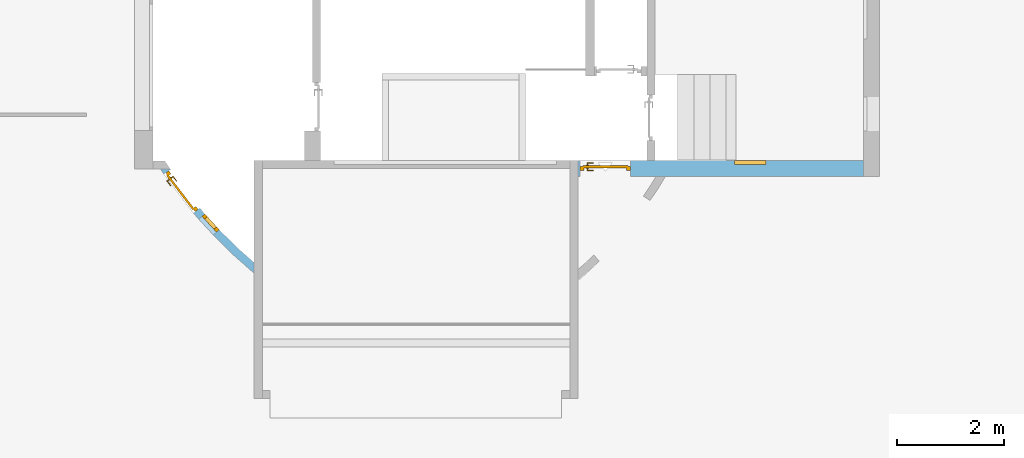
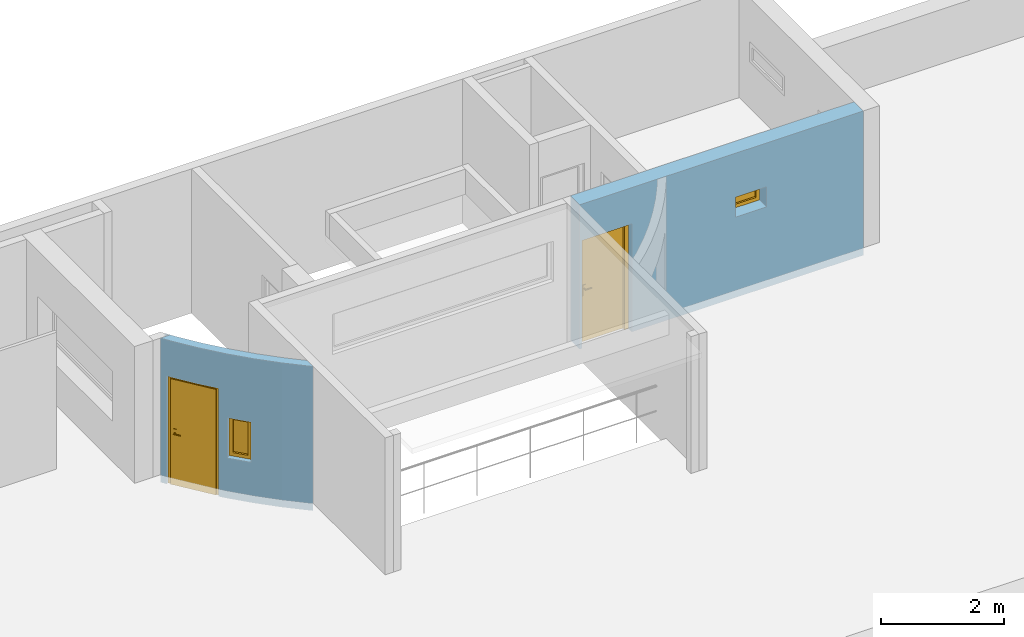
"""IFC4 building model written with IfcOpenShell, lengths in metres."""

from ifc_helpers import new_model, entity, si_unit, converted_unit, derived_unit, frame, frame_2d, origin, origin_with_axes, place, context, subcontext, project, spatial, polyline, rectangle, outline, extrude, closed_shell, open_shell, faceted_brep, surface_model, source, transform, mapped, material, layer, layer_set, layer_usage, element, fill, save


model = new_model("IFC4")

# Units and contexts
model_context = context("Model", 3, precision=1e-05, world=origin())
body_context = subcontext(model_context, "Body", "Model", "MODEL_VIEW")
ifc_project = project(units=[si_unit("LENGTHUNIT", "METRE"), si_unit("AREAUNIT", "SQUARE_METRE"), si_unit("VOLUMEUNIT", "CUBIC_METRE"), si_unit("MASSUNIT", "GRAM", prefix="KILO"), converted_unit("PLANEANGLEUNIT", "DEGREE", entity("IfcPlaneAngleMeasure", 0.0174532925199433), si_unit("PLANEANGLEUNIT", "RADIAN"), dimensions=[0, 0, 0, 0, 0, 0, 0]), derived_unit("THERMALTRANSMITTANCEUNIT", [(si_unit("POWERUNIT", "WATT"), 1), (si_unit("THERMODYNAMICTEMPERATUREUNIT", "KELVIN"), -1), (si_unit("LENGTHUNIT", "METRE"), -2)]), derived_unit("VOLUMETRICFLOWRATEUNIT", [(si_unit("LENGTHUNIT", "METRE"), 3), (converted_unit("TIMEUNIT", "hour", entity("IfcTimeMeasure", 3600.0), si_unit("TIMEUNIT", "SECOND"), dimensions=[0, 0, 1, 0, 0, 0, 0]), -1), (si_unit("LENGTHUNIT", "METRE"), -1)])], contexts=[model_context])

# Building, storeys
building_placement = place(None, origin())
building = spatial("IfcBuilding", under=ifc_project, at=building_placement, Name="HABITATGE PLURIFAMILIAR", CompositionType="ELEMENT")
storey_1_placement = place(building_placement, frame((0.0, 0.0, 21.2)))
storey_1 = spatial("IfcBuildingStorey", under=building, at=storey_1_placement, Name="PLANTA SOTACOBERTA", CompositionType="ELEMENT", Elevation=21.2)
storey_2_placement = place(storey_1_placement, origin())
storey_2 = spatial("IfcBuildingStorey", under=storey_1, at=storey_2_placement, Name="NOU", CompositionType="PARTIAL")

# Wall, openings, window, door
ifc_material_1 = material()
ifc_layer_1 = layer(ifc_material_1, 0.3)
ifc_layer_set_1 = layer_set([ifc_layer_1])
ifc_layer_usage_1 = layer_usage(ifc_layer_set_1, "AXIS2", "POSITIVE", 0.0)
wall_1_placement = place(storey_2_placement, frame((415.636931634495, 24.0095914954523, 0.0)))
wall_1 = element("IfcWall", 1, at=wall_1_placement, inside=storey_2, material=ifc_layer_usage_1, Name="Mur PSC", context=body_context, shape_type="SweptSolid", body=[
    extrude(rectangle(XDim=5.34, YDim=0.3, at=frame_2d((2.67, 0.15), x_axis=(1.0, 0.0))), origin_with_axes(), (0.0, 0.0, 1.0), 2.87),
])
opening_1_placement = place(wall_1_placement, frame((2.93, 0.0, 1.6), z_axis=(0.0, 1.0, 0.0), x_axis=(0.0, 0.0, 1.0)))
opening_1 = element("IfcOpeningElement", 2, at=opening_1_placement, cuts=wall_1, Name="Vano finestra PSC", ObjectType="Opening", context=body_context, shape_type="SweptSolid", body=[
    extrude(outline(polyline([(0.4, 0.59), (0.4, 0.0), (0.0, 0.0), (0.0, 0.59), (0.4, 0.59)])), origin_with_axes(), (0.0, 0.0, 1.0), 0.3),
])
opening_2_placement = place(wall_1_placement, frame((0.0449999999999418, 0.0, 0.0), z_axis=(0.0, 1.0, 0.0), x_axis=(0.0, 0.0, 1.0)))
opening_2 = element("IfcOpeningElement", 3, at=opening_2_placement, cuts=wall_1, Name="Vano porta PSC", ObjectType="Opening", context=body_context, shape_type="SweptSolid", body=[
    extrude(outline(polyline([(2.15, 0.94), (2.15, 0.0), (0.0, 0.0), (0.0, 0.94), (2.15, 0.94)])), origin_with_axes(), (0.0, 0.0, 1.0), 0.3),
])
shared_shape_1 = source(origin_with_axes(), body_context, "Body", "SurfaceModel", [
    surface_model("IfcShellBasedSurfaceModel", [(0.0, 0.0, 0.4), (0.07, 0.0, 0.4), (0.07, 0.0, 0.0), (0.0, 0.0, 0.0), (0.0, 0.07, 0.0), (0.07, 0.07, 0.0), (0.07, 0.07, 0.4), (0.0, 0.07, 0.4)], [closed_shell([[[0, 1, 2, 3]], [[4, 5, 6, 7]], [[3, 4, 7, 0]], [[2, 5, 4, 3]], [[1, 6, 5, 2]], [[0, 7, 6, 1]]], orient=[[False], [False], [False], [False], [False], [False]])]),
    surface_model("IfcShellBasedSurfaceModel", [(0.52, 0.0, 0.4), (0.59, 0.0, 0.4), (0.59, 0.0, 0.0), (0.52, 0.0, 0.0), (0.52, 0.07, 0.0), (0.59, 0.07, 0.0), (0.59, 0.07, 0.4), (0.52, 0.07, 0.4)], [closed_shell([[[0, 1, 2, 3]], [[4, 5, 6, 7]], [[3, 4, 7, 0]], [[2, 5, 4, 3]], [[1, 6, 5, 2]], [[0, 7, 6, 1]]], orient=[[False], [False], [False], [False], [False], [False]])]),
    surface_model("IfcShellBasedSurfaceModel", [(0.07, 0.0, 0.07), (0.52, 0.0, 0.07), (0.52, 0.0, 0.0), (0.07, 0.0, 0.0), (0.07, 0.07, 0.0), (0.52, 0.07, 0.0), (0.52, 0.07, 0.07), (0.07, 0.07, 0.07)], [closed_shell([[[0, 1, 2, 3]], [[4, 5, 6, 7]], [[3, 4, 7, 0]], [[2, 5, 4, 3]], [[1, 6, 5, 2]], [[0, 7, 6, 1]]], orient=[[False], [False], [False], [False], [False], [False]])]),
    surface_model("IfcShellBasedSurfaceModel", [(0.07, 0.0, 0.4), (0.52, 0.0, 0.4), (0.52, 0.0, 0.33), (0.07, 0.0, 0.33), (0.07, 0.07, 0.33), (0.52, 0.07, 0.33), (0.52, 0.07, 0.4), (0.07, 0.07, 0.4)], [closed_shell([[[0, 1, 2, 3]], [[4, 5, 6, 7]], [[3, 4, 7, 0]], [[2, 5, 4, 3]], [[1, 6, 5, 2]], [[0, 7, 6, 1]]], orient=[[False], [False], [False], [False], [False], [False]])]),
    surface_model("IfcShellBasedSurfaceModel", [(0.07, 0.035, 0.07), (0.07, 0.035, 0.33), (0.52, 0.035, 0.33), (0.52, 0.035, 0.07)], [open_shell([[[0, 1, 2, 3]]], orient=[[False]])]),
])
window_1_placement = place(opening_1_placement, frame((0.0, 0.59, 0.3), z_axis=(1.0, 0.0, 0.0), x_axis=(0.0, -1.0, 0.0)))
window_1 = element("IfcWindow", 4, at=window_1_placement, inside=storey_2, Name="Finestra PSC", OverallHeight=0.4, OverallWidth=0.59, PartitioningType="USERDEFINED", PredefinedType="WINDOW", context=body_context, shape_type="MappedRepresentation", body=[
    mapped(shared_shape_1, transform((0.0, 0.0, 0.0), x_axis=(1.0, 0.0, 0.0), y_axis=(0.0, 1.0, 0.0), z_axis=(0.0, 0.0, 1.0), scale=1.0)),
])
fill(opening_1, window_1)
shared_shape_2 = source(origin_with_axes(), body_context, "Body", "Brep", [
    faceted_brep([(0.0, 0.07, 2.15), (0.0, 0.07, 0.0), (0.07, 0.07, 0.0), (0.07, 0.07, 2.15), (0.0, 0.0, 0.0), (0.0, 0.0, 2.15), (0.07, 0.0, 2.15), (0.07, 0.0, 0.0)], [[[0, 1, 2, 3]], [[4, 5, 6, 7]], [[1, 0, 5, 4]], [[2, 1, 4, 7]], [[3, 2, 7, 6]], [[0, 3, 6, 5]]], orient=[[False], [False], [False], [False], [False], [False]]),
    faceted_brep([(0.87, 0.07, 2.15), (0.87, 0.07, 0.0), (0.94, 0.07, 0.0), (0.94, 0.07, 2.15), (0.87, 0.0, 0.0), (0.87, 0.0, 2.15), (0.94, 0.0, 2.15), (0.94, 0.0, 0.0)], [[[0, 1, 2, 3]], [[4, 5, 6, 7]], [[1, 0, 5, 4]], [[2, 1, 4, 7]], [[3, 2, 7, 6]], [[0, 3, 6, 5]]], orient=[[False], [False], [False], [False], [False], [False]]),
    faceted_brep([(0.07, 0.07, 2.15), (0.07, 0.07, 2.08), (0.87, 0.07, 2.08), (0.87, 0.07, 2.15), (0.07, 0.0, 2.08), (0.07, 0.0, 2.15), (0.87, 0.0, 2.15), (0.87, 0.0, 2.08)], [[[0, 1, 2, 3]], [[4, 5, 6, 7]], [[1, 0, 5, 4]], [[2, 1, 4, 7]], [[3, 2, 7, 6]], [[0, 3, 6, 5]]], orient=[[False], [False], [False], [False], [False], [False]]),
    faceted_brep([(0.05, 0.09, 2.1), (0.05, 0.09, 0.0), (0.89, 0.09, 0.0), (0.89, 0.09, 2.1), (0.05, 0.05, 0.0), (0.05, 0.05, 2.1), (0.89, 0.05, 2.1), (0.89, 0.05, 0.0)], [[[0, 1, 2, 3]], [[4, 5, 6, 7]], [[1, 0, 5, 4]], [[2, 1, 4, 7]], [[3, 2, 7, 6]], [[0, 3, 6, 5]]], orient=[[False], [False], [False], [False], [False], [False]]),
    faceted_brep([(0.11, 0.05, 1.125), (0.11, 0.05, 0.91), (0.16, 0.05, 0.91), (0.16, 0.05, 1.125), (0.11, 0.04, 0.91), (0.11, 0.04, 1.125), (0.16, 0.04, 1.125), (0.16, 0.04, 0.91)], [[[0, 1, 2, 3]], [[4, 5, 6, 7]], [[1, 0, 5, 4]], [[2, 1, 4, 7]], [[3, 2, 7, 6]], [[0, 3, 6, 5]]], orient=[[False], [False], [False], [False], [False], [False]]),
    faceted_brep([(0.135, 0.04, 1.06), (0.13, 0.04, 1.05866025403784), (0.126339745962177, 0.04, 1.055), (0.125, 0.04, 1.05), (0.126339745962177, 0.04, 1.045), (0.13, 0.04, 1.04133974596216), (0.135, 0.04, 1.04), (0.14, 0.04, 1.04133974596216), (0.143660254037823, 0.04, 1.045), (0.145, 0.04, 1.05), (0.143660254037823, 0.04, 1.055), (0.14, 0.04, 1.05866025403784), (0.135, 0.0, 1.06), (0.13, -0.005, 1.05866025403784), (0.126339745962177, -0.00866025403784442, 1.055), (0.125, -0.01, 1.05), (0.126339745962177, -0.00866025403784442, 1.045), (0.13, -0.005, 1.04133974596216), (0.135, 0.0, 1.04), (0.14, 0.005, 1.04133974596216), (0.143660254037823, 0.00866025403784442, 1.045), (0.145, 0.01, 1.05), (0.143660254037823, 0.00866025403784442, 1.055), (0.14, 0.005, 1.05866025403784), (0.25, 0.0, 1.06), (0.25, 0.005, 1.05866025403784), (0.25, 0.00866025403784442, 1.055), (0.25, 0.01, 1.05), (0.25, 0.00866025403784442, 1.045), (0.25, 0.005, 1.04133974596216), (0.25, 0.0, 1.04), (0.25, -0.005, 1.04133974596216), (0.25, -0.00866025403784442, 1.045), (0.25, -0.01, 1.05), (0.25, -0.00866025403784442, 1.055), (0.25, -0.005, 1.05866025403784)], [[[0, 1, 2, 3, 4, 5, 6, 7, 8, 9, 10, 11]], [[0, 12, 13, 1]], [[1, 13, 14, 2]], [[2, 14, 15, 3]], [[3, 15, 16, 4]], [[4, 16, 17, 5]], [[5, 17, 18, 6]], [[6, 18, 19, 7]], [[7, 19, 20, 8]], [[8, 20, 21, 9]], [[9, 21, 22, 10]], [[10, 22, 23, 11]], [[11, 23, 12, 0]], [[24, 25, 26, 27, 28, 29, 30, 31, 32, 33, 34, 35]], [[12, 24, 35, 13]], [[13, 35, 34, 14]], [[14, 34, 33, 15]], [[15, 33, 32, 16]], [[16, 32, 31, 17]], [[17, 31, 30, 18]], [[18, 30, 29, 19]], [[19, 29, 28, 20]], [[20, 28, 27, 21]], [[21, 27, 26, 22]], [[22, 26, 25, 23]], [[23, 25, 24, 12]]], orient=[[False], [False], [False], [False], [False], [False], [False], [False], [False], [False], [False], [False], [False], [False], [False], [False], [False], [False], [False], [False], [False], [False], [False], [False], [False], [False]]),
    faceted_brep([(0.11, 0.09, 1.125), (0.16, 0.09, 1.125), (0.16, 0.09, 0.91), (0.11, 0.09, 0.91), (0.11, 0.1, 0.91), (0.16, 0.1, 0.91), (0.16, 0.1, 1.125), (0.11, 0.1, 1.125)], [[[0, 1, 2, 3]], [[4, 5, 6, 7]], [[3, 4, 7, 0]], [[2, 5, 4, 3]], [[1, 6, 5, 2]], [[0, 7, 6, 1]]], orient=[[False], [False], [False], [False], [False], [False]]),
    faceted_brep([(0.135, 0.1, 1.06), (0.14, 0.1, 1.05866025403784), (0.143660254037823, 0.1, 1.055), (0.145, 0.1, 1.05), (0.143660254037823, 0.1, 1.045), (0.14, 0.1, 1.04133974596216), (0.135, 0.1, 1.04), (0.13, 0.1, 1.04133974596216), (0.126339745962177, 0.1, 1.045), (0.125, 0.1, 1.05), (0.126339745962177, 0.1, 1.055), (0.13, 0.1, 1.05866025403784), (0.13, 0.145, 1.05866025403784), (0.135, 0.14, 1.06), (0.126339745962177, 0.148660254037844, 1.055), (0.125, 0.15, 1.05), (0.126339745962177, 0.148660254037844, 1.045), (0.13, 0.145, 1.04133974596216), (0.135, 0.14, 1.04), (0.14, 0.135, 1.04133974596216), (0.143660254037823, 0.131339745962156, 1.045), (0.145, 0.13, 1.05), (0.143660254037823, 0.131339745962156, 1.055), (0.14, 0.135, 1.05866025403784), (0.25, 0.14, 1.06), (0.25, 0.145, 1.05866025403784), (0.25, 0.148660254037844, 1.055), (0.25, 0.15, 1.05), (0.25, 0.148660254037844, 1.045), (0.25, 0.145, 1.04133974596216), (0.25, 0.14, 1.04), (0.25, 0.135, 1.04133974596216), (0.25, 0.131339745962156, 1.045), (0.25, 0.13, 1.05), (0.25, 0.131339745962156, 1.055), (0.25, 0.135, 1.05866025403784)], [[[0, 1, 2, 3, 4, 5, 6, 7, 8, 9, 10, 11]], [[0, 11, 12, 13]], [[11, 10, 14, 12]], [[10, 9, 15, 14]], [[9, 8, 16, 15]], [[8, 7, 17, 16]], [[7, 6, 18, 17]], [[6, 5, 19, 18]], [[5, 4, 20, 19]], [[4, 3, 21, 20]], [[3, 2, 22, 21]], [[2, 1, 23, 22]], [[1, 0, 13, 23]], [[24, 25, 26, 27, 28, 29, 30, 31, 32, 33, 34, 35]], [[13, 12, 25, 24]], [[12, 14, 26, 25]], [[14, 15, 27, 26]], [[15, 16, 28, 27]], [[16, 17, 29, 28]], [[17, 18, 30, 29]], [[18, 19, 31, 30]], [[19, 20, 32, 31]], [[20, 21, 33, 32]], [[21, 22, 34, 33]], [[22, 23, 35, 34]], [[23, 13, 24, 35]]], orient=[[False], [False], [False], [False], [False], [False], [False], [False], [False], [False], [False], [False], [False], [False], [False], [False], [False], [False], [False], [False], [False], [False], [False], [False], [False], [False]]),
])
door_1_placement = place(opening_2_placement, frame((0.0, 0.0, 0.115), z_axis=(1.0, 0.0, 0.0), x_axis=(0.0, 1.0, 0.0)))
door_1 = element("IfcDoor", 5, at=door_1_placement, inside=storey_2, Name="Porta PSC", OperationType="USERDEFINED", OverallHeight=2.15, OverallWidth=0.94, PredefinedType="DOOR", context=body_context, shape_type="MappedRepresentation", body=[
    mapped(shared_shape_2, transform((0.0, 0.0, 0.0), x_axis=(1.0, 0.0, 0.0), y_axis=(0.0, 1.0, 0.0), z_axis=(0.0, 0.0, 1.0), scale=1.0)),
])
fill(opening_2, door_1)

ifc_material_2 = material()
ifc_layer_2 = layer(ifc_material_2, 0.15)
ifc_layer_set_2 = layer_set([ifc_layer_2])
ifc_layer_usage_2 = layer_usage(ifc_layer_set_2, "AXIS2", "NEGATIVE", 0.15)
wall_2_placement = place(storey_2_placement, frame((415.363278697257, 29.1737875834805, 0.0)))
wall_2 = element("IfcWall", 6, at=wall_2_placement, inside=storey_2, material=ifc_layer_usage_2, Name="Mur PSC", context=body_context, shape_type="SweptSolid", body=[
    extrude(outline(polyline([(0.0, 1.9415914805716), (0.115736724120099, 1.76706504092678), (0.397974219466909, 1.38634155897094), (0.699750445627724, 1.02091101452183), (1.02023825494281, 0.671775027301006), (1.35855921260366, 0.339890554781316), (1.71378600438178, 0.0261672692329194), (1.74674204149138, 0.0), (1.74808185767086, 0.00161476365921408), (1.74808185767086, 0.196002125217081), (1.46079777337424, 0.449720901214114), (1.12808477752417, 0.776104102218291), (0.812909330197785, 1.11945285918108), (0.516135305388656, 1.47882607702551), (0.238576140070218, 1.85323873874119), (0.124757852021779, 2.02487225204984), (0.124615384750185, 2.0247771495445), (0.179764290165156, 1.94161476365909), (3.48789754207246e-05, 1.94161476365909), (0.0, 1.9415914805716)])), frame((-7.52647706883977, -6.96581085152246, 0.0), z_axis=(0.0, 0.0, 1.0), x_axis=(1.0, 0.0, 0.0)), (0.0, 0.0, 1.0), 2.87),
])
opening_3_placement = place(wall_2_placement, frame((-6.8225502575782, -5.97256571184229, 0.8), z_axis=(0.736684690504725, 0.676236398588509, 0.0), x_axis=(0.0, 0.0, 1.0)))
opening_3 = element("IfcOpeningElement", 7, at=opening_3_placement, cuts=wall_2, Name="Vano finestra PSC", ObjectType="Opening", context=body_context, shape_type="SweptSolid", body=[
    extrude(outline(polyline([(0.0, 0.0), (0.0, 0.399999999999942), (0.8, 0.399999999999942), (0.8, 0.0), (0.0, 0.0), (0.0, 0.399999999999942), (0.8, 0.399999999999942), (0.8, 0.0), (0.0, 0.0), (0.0, 0.399999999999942), (0.0, 0.0)])), origin_with_axes(), (0.0, 0.0, 1.0), 0.165632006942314),
])
opening_4_placement = place(wall_2_placement, frame((-7.46576813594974, -5.84521611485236, 0.0)))
opening_4 = element("IfcOpeningElement", 8, at=opening_4_placement, cuts=wall_2, Name="Vano porta PSC", ObjectType="Opening", context=body_context, shape_type="Brep", body=[
    faceted_brep([(0.672381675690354, 0.095513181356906, 0.0), (0.455426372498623, 0.3582313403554, 0.0), (0.177867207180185, 0.732644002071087, 0.0), (0.125010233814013, 0.812350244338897, 0.0), (0.0, 0.729450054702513, 0.0), (0.0550277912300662, 0.646470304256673, 0.0), (0.337265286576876, 0.265746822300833, 0.0), (0.55672169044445, 0.0, 0.0), (0.455426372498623, 0.3582313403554, 2.15), (0.672381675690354, 0.095513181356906, 2.15), (0.55672169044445, 0.0, 2.15), (0.337265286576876, 0.265746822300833, 2.15), (0.0550277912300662, 0.646470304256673, 2.15), (0.0, 0.729450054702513, 2.15), (0.125010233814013, 0.812350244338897, 2.15), (0.177867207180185, 0.732644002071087, 2.15)], [[[0, 1, 2, 3, 4, 5, 6, 7]], [[8, 9, 10, 11, 12, 13, 14, 15]], [[1, 0, 9, 8]], [[2, 1, 8, 15]], [[3, 2, 15, 14]], [[4, 3, 14, 13]], [[5, 4, 13, 12]], [[6, 5, 12, 11]], [[7, 6, 11, 10]], [[0, 7, 10, 9]]], orient=[[False], [False], [False], [False], [False], [False], [False], [False], [False], [False]]),
])
shared_shape_3 = source(origin_with_axes(), body_context, "Body", "SurfaceModel", [
    surface_model("IfcShellBasedSurfaceModel", [(0.0, 0.0, 0.8), (0.0700000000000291, 0.0, 0.8), (0.0700000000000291, 0.0, 0.0), (0.0, 0.0, 0.0), (0.0, 0.0700000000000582, 0.0), (0.0700000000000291, 0.0700000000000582, 0.0), (0.0700000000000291, 0.0700000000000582, 0.8), (0.0, 0.0700000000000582, 0.8)], [closed_shell([[[0, 1, 2, 3]], [[4, 5, 6, 7]], [[3, 4, 7, 0]], [[2, 5, 4, 3]], [[1, 6, 5, 2]], [[0, 7, 6, 1]]], orient=[[False], [False], [False], [False], [False], [False]])]),
    surface_model("IfcShellBasedSurfaceModel", [(0.330000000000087, 0.0, 0.8), (0.400000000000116, 0.0, 0.8), (0.400000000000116, 0.0, 0.0), (0.330000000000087, 0.0, 0.0), (0.330000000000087, 0.0700000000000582, 0.0), (0.400000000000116, 0.0700000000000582, 0.0), (0.400000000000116, 0.0700000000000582, 0.8), (0.330000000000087, 0.0700000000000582, 0.8)], [closed_shell([[[0, 1, 2, 3]], [[4, 5, 6, 7]], [[3, 4, 7, 0]], [[2, 5, 4, 3]], [[1, 6, 5, 2]], [[0, 7, 6, 1]]], orient=[[False], [False], [False], [False], [False], [False]])]),
    surface_model("IfcShellBasedSurfaceModel", [(0.0700000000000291, 0.0, 0.07), (0.330000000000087, 0.0, 0.07), (0.330000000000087, 0.0, 0.0), (0.0700000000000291, 0.0, 0.0), (0.0700000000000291, 0.0700000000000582, 0.0), (0.330000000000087, 0.0700000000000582, 0.0), (0.330000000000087, 0.0700000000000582, 0.07), (0.0700000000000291, 0.0700000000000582, 0.07)], [closed_shell([[[0, 1, 2, 3]], [[4, 5, 6, 7]], [[3, 4, 7, 0]], [[2, 5, 4, 3]], [[1, 6, 5, 2]], [[0, 7, 6, 1]]], orient=[[False], [False], [False], [False], [False], [False]])]),
    surface_model("IfcShellBasedSurfaceModel", [(0.0700000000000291, 0.0, 0.8), (0.330000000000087, 0.0, 0.8), (0.330000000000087, 0.0, 0.73), (0.0700000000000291, 0.0, 0.73), (0.0700000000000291, 0.0700000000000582, 0.73), (0.330000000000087, 0.0700000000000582, 0.73), (0.330000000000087, 0.0700000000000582, 0.8), (0.0700000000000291, 0.0700000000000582, 0.8)], [closed_shell([[[0, 1, 2, 3]], [[4, 5, 6, 7]], [[3, 4, 7, 0]], [[2, 5, 4, 3]], [[1, 6, 5, 2]], [[0, 7, 6, 1]]], orient=[[False], [False], [False], [False], [False], [False]])]),
    surface_model("IfcShellBasedSurfaceModel", [(0.0700000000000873, 0.0350000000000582, 0.07), (0.0700000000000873, 0.0350000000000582, 0.73), (0.330000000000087, 0.035, 0.73), (0.330000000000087, 0.035, 0.07)], [open_shell([[[0, 1, 2, 3]]], orient=[[False]])]),
])
window_2_placement = place(opening_3_placement, frame((0.0, 0.0, 0.0956320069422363), z_axis=(1.0, 0.0, 0.0), x_axis=(0.0, 1.0, -3.20299342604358e-14)))
window_2 = element("IfcWindow", 9, at=window_2_placement, inside=storey_2, Name="Finestra PSC", OverallHeight=0.8, OverallWidth=0.4, PartitioningType="USERDEFINED", PredefinedType="WINDOW", context=body_context, shape_type="MappedRepresentation", body=[
    mapped(shared_shape_3, transform((0.0, 0.0, 0.0), x_axis=(1.0, 0.0, 0.0), y_axis=(0.0, 1.0, 0.0), z_axis=(0.0, 0.0, 1.0), scale=1.0)),
])
fill(opening_3, window_2)
shared_shape_4 = source(origin_with_axes(), body_context, "Body", "Brep", [
    faceted_brep([(0.906282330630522, 0.0829092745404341, 2.15), (0.836282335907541, 0.0829092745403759, 2.15), (0.836282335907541, 0.0829092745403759, 0.0), (0.906282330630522, 0.0829092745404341, 0.0), (0.906282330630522, 0.0129092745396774, 0.0), (0.836282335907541, 0.0129092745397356, 0.0), (0.836282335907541, 0.0129092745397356, 2.15), (0.906282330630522, 0.0129092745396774, 2.15)], [[[0, 1, 2, 3]], [[4, 5, 6, 7]], [[3, 4, 7, 0]], [[2, 5, 4, 3]], [[1, 6, 5, 2]], [[0, 7, 6, 1]]], orient=[[False], [False], [False], [False], [False], [False]]),
    faceted_brep([(0.0691258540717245, 0.0829092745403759, 2.15), (-0.000874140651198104, 0.0829092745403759, 2.15), (-0.000874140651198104, 0.0829092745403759, 0.0), (0.0691258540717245, 0.0829092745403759, 0.0), (0.0691258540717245, 0.0129092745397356, 0.0), (-0.000874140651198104, 0.0129092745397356, 0.0), (-0.000874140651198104, 0.0129092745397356, 2.15), (0.0691258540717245, 0.0129092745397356, 2.15)], [[[0, 1, 2, 3]], [[4, 5, 6, 7]], [[3, 4, 7, 0]], [[2, 5, 4, 3]], [[1, 6, 5, 2]], [[0, 7, 6, 1]]], orient=[[False], [False], [False], [False], [False], [False]]),
    faceted_brep([(0.836282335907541, 0.0829092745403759, 2.15), (0.0691258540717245, 0.0829092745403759, 2.15), (0.0691258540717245, 0.0829092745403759, 2.08), (0.836282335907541, 0.0829092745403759, 2.08), (0.836282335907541, 0.0129092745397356, 2.08), (0.0691258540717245, 0.0129092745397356, 2.08), (0.0691258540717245, 0.0129092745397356, 2.15), (0.836282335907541, 0.0129092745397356, 2.15)], [[[0, 1, 2, 3]], [[4, 5, 6, 7]], [[3, 4, 7, 0]], [[2, 5, 4, 3]], [[1, 6, 5, 2]], [[0, 7, 6, 1]]], orient=[[False], [False], [False], [False], [False], [False]]),
    faceted_brep([(0.856282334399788, 0.102909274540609, 2.1), (0.0491258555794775, 0.102909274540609, 2.1), (0.0491258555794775, 0.102909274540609, 0.0), (0.856282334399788, 0.102909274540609, 0.0), (0.856282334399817, 0.0629092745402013, 0.0), (0.0491258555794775, 0.0629092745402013, 0.0), (0.0491258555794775, 0.0629092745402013, 2.1), (0.856282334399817, 0.0629092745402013, 2.1)], [[[0, 1, 2, 3]], [[4, 5, 6, 7]], [[3, 4, 7, 0]], [[2, 5, 4, 3]], [[1, 6, 5, 2]], [[0, 7, 6, 1]]], orient=[[False], [False], [False], [False], [False], [False]]),
    faceted_brep([(0.796282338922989, 0.0629092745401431, 1.125), (0.746282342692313, 0.0629092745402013, 1.125), (0.746282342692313, 0.0629092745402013, 0.91), (0.796282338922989, 0.0629092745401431, 0.91), (0.796282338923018, 0.0529092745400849, 0.91), (0.746282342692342, 0.0529092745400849, 0.91), (0.746282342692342, 0.0529092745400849, 1.125), (0.796282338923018, 0.0529092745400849, 1.125)], [[[0, 1, 2, 3]], [[4, 5, 6, 7]], [[3, 4, 7, 0]], [[2, 5, 4, 3]], [[1, 6, 5, 2]], [[0, 7, 6, 1]]], orient=[[False], [False], [False], [False], [False], [False]]),
    faceted_brep([(0.771282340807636, 0.0529092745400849, 1.06), (0.766282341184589, 0.0529092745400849, 1.05866025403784), (0.7626220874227, 0.0529092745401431, 1.055), (0.761282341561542, 0.0529092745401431, 1.05), (0.7626220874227, 0.0529092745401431, 1.045), (0.766282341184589, 0.0529092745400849, 1.04133974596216), (0.771282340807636, 0.0529092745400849, 1.04), (0.776282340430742, 0.0529092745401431, 1.04133974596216), (0.77994259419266, 0.0529092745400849, 1.045), (0.781282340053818, 0.0529092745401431, 1.05), (0.77994259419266, 0.0529092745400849, 1.055), (0.776282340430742, 0.0529092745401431, 1.05866025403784), (0.776282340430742, 0.00790927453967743, 1.05866025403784), (0.771282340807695, 0.0129092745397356, 1.06), (0.779942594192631, 0.00424902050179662, 1.055), (0.781282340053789, 0.00290927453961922, 1.05), (0.779942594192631, 0.00424902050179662, 1.045), (0.776282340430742, 0.00790927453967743, 1.04133974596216), (0.771282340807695, 0.0129092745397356, 1.04), (0.76628234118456, 0.0179092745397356, 1.04133974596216), (0.762622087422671, 0.0215695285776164, 1.045), (0.761282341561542, 0.0229092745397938, 1.05), (0.762622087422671, 0.0215695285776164, 1.055), (0.76628234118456, 0.0179092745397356, 1.05866025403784), (0.656282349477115, 0.0129092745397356, 1.06), (0.656282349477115, 0.00790927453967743, 1.05866025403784), (0.656282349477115, 0.00424902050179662, 1.055), (0.656282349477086, 0.00290927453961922, 1.05), (0.656282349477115, 0.00424902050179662, 1.045), (0.656282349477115, 0.00790927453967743, 1.04133974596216), (0.656282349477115, 0.0129092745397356, 1.04), (0.656282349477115, 0.0179092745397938, 1.04133974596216), (0.656282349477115, 0.0215695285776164, 1.045), (0.656282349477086, 0.0229092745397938, 1.05), (0.656282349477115, 0.0215695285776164, 1.055), (0.656282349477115, 0.0179092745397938, 1.05866025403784)], [[[0, 1, 2, 3, 4, 5, 6, 7, 8, 9, 10, 11]], [[0, 11, 12, 13]], [[11, 10, 14, 12]], [[10, 9, 15, 14]], [[9, 8, 16, 15]], [[8, 7, 17, 16]], [[7, 6, 18, 17]], [[6, 5, 19, 18]], [[5, 4, 20, 19]], [[4, 3, 21, 20]], [[3, 2, 22, 21]], [[2, 1, 23, 22]], [[1, 0, 13, 23]], [[24, 25, 26, 27, 28, 29, 30, 31, 32, 33, 34, 35]], [[13, 12, 25, 24]], [[12, 14, 26, 25]], [[14, 15, 27, 26]], [[15, 16, 28, 27]], [[16, 17, 29, 28]], [[17, 18, 30, 29]], [[18, 19, 31, 30]], [[19, 20, 32, 31]], [[20, 21, 33, 32]], [[21, 22, 34, 33]], [[22, 23, 35, 34]], [[23, 13, 24, 35]]], orient=[[False], [False], [False], [False], [False], [False], [False], [False], [False], [False], [False], [False], [False], [False], [False], [False], [False], [False], [False], [False], [False], [False], [False], [False], [False], [False]]),
    faceted_brep([(0.796282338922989, 0.102909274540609, 1.125), (0.796282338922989, 0.102909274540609, 0.91), (0.746282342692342, 0.102909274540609, 0.91), (0.746282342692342, 0.102909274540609, 1.125), (0.796282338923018, 0.112909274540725, 0.91), (0.796282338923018, 0.112909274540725, 1.125), (0.746282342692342, 0.112909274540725, 1.125), (0.746282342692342, 0.112909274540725, 0.91)], [[[0, 1, 2, 3]], [[4, 5, 6, 7]], [[1, 0, 5, 4]], [[2, 1, 4, 7]], [[3, 2, 7, 6]], [[0, 3, 6, 5]]], orient=[[False], [False], [False], [False], [False], [False]]),
    faceted_brep([(0.771282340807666, 0.112909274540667, 1.06), (0.776282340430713, 0.112909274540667, 1.05866025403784), (0.77994259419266, 0.112909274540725, 1.055), (0.781282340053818, 0.112909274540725, 1.05), (0.77994259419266, 0.112909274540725, 1.045), (0.776282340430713, 0.112909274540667, 1.04133974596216), (0.771282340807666, 0.112909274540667, 1.04), (0.766282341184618, 0.112909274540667, 1.04133974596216), (0.762622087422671, 0.112909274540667, 1.045), (0.761282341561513, 0.112909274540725, 1.05), (0.762622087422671, 0.112909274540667, 1.055), (0.766282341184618, 0.112909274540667, 1.05866025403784), (0.771282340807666, 0.152909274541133, 1.06), (0.776282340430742, 0.157909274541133, 1.05866025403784), (0.779942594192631, 0.161569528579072, 1.055), (0.781282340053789, 0.162909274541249, 1.05), (0.779942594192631, 0.161569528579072, 1.045), (0.776282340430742, 0.157909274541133, 1.04133974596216), (0.771282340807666, 0.152909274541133, 1.04), (0.766282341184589, 0.147909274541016, 1.04133974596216), (0.7626220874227, 0.144249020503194, 1.045), (0.761282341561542, 0.142909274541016, 1.05), (0.7626220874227, 0.144249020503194, 1.055), (0.766282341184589, 0.147909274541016, 1.05866025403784), (0.656282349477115, 0.152909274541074, 1.06), (0.656282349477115, 0.147909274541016, 1.05866025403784), (0.656282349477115, 0.144249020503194, 1.055), (0.656282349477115, 0.142909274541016, 1.05), (0.656282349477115, 0.144249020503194, 1.045), (0.656282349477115, 0.147909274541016, 1.04133974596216), (0.656282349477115, 0.152909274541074, 1.04), (0.656282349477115, 0.157909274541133, 1.04133974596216), (0.656282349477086, 0.161569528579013, 1.045), (0.656282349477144, 0.162909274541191, 1.05), (0.656282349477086, 0.161569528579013, 1.055), (0.656282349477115, 0.157909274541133, 1.05866025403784)], [[[0, 1, 2, 3, 4, 5, 6, 7, 8, 9, 10, 11]], [[0, 12, 13, 1]], [[1, 13, 14, 2]], [[2, 14, 15, 3]], [[3, 15, 16, 4]], [[4, 16, 17, 5]], [[5, 17, 18, 6]], [[6, 18, 19, 7]], [[7, 19, 20, 8]], [[8, 20, 21, 9]], [[9, 21, 22, 10]], [[10, 22, 23, 11]], [[11, 23, 12, 0]], [[24, 25, 26, 27, 28, 29, 30, 31, 32, 33, 34, 35]], [[12, 24, 35, 13]], [[13, 35, 34, 14]], [[14, 34, 33, 15]], [[15, 33, 32, 16]], [[16, 32, 31, 17]], [[17, 31, 30, 18]], [[18, 30, 29, 19]], [[19, 29, 28, 20]], [[20, 28, 27, 21]], [[21, 27, 26, 22]], [[22, 26, 25, 23]], [[23, 25, 24, 12]]], orient=[[False], [False], [False], [False], [False], [False], [False], [False], [False], [False], [False], [False], [False], [False], [False], [False], [False], [False], [False], [False], [False], [False], [False], [False], [False], [False]]),
])
door_2_placement = place(opening_4_placement, frame((0.651562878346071, 0.0783208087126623, 0.0), z_axis=(0.0, 0.0, 1.0), x_axis=(-0.606891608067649, 0.794784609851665, 0.0)))
door_2 = element("IfcDoor", 10, at=door_2_placement, inside=storey_2, Name="Porta PSC", OperationType="USERDEFINED", OverallHeight=2.15, OverallWidth=0.90716, PredefinedType="DOOR", context=body_context, shape_type="MappedRepresentation", body=[
    mapped(shared_shape_4, transform((0.0, 0.0, 0.0), x_axis=(1.0, 0.0, 0.0), y_axis=(0.0, 1.0, 0.0), z_axis=(0.0, 0.0, 1.0), scale=1.0)),
])
fill(opening_4, door_2)

save(model, "model.ifc")
